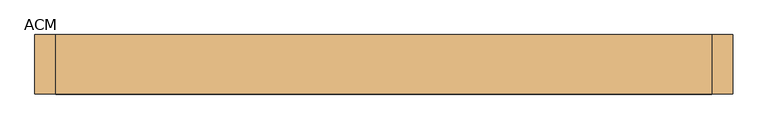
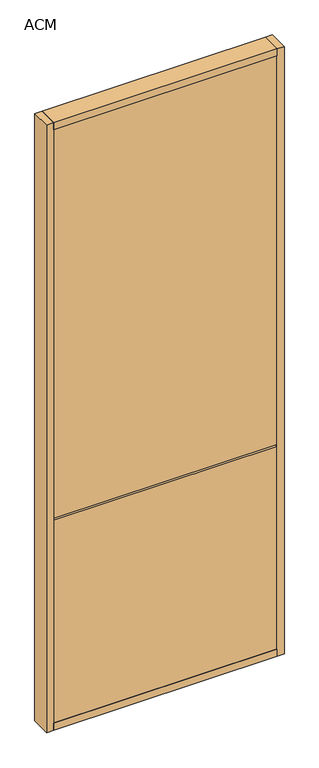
"""IFC4 building model written with IfcOpenShell, lengths in millimetres: door geometry, Mobiliário_Mobiliário de Escritório_Painel Cego - ACM (Completo)_Marelli : ACM."""

from ifc_helpers import new_model, si_unit, frame, origin, origin_with_axes, place, context, project, spatial, polyline, outline, extrude, source, transform, mapped, element, save


def acm_47dcd549(model_context):
    return source(origin(), model_context, "Body", "SweptSolid", [
        extrude(outline(polyline([(470.0, 42.5), (470.0, -42.5), (-470.0, -42.5), (-470.0, 42.5), (470.0, 42.5)])), origin_with_axes(), (0.0, 0.0, 1.0), 30.0),
        extrude(outline(polyline([(470.0, 39.5), (470.0, 21.5), (-470.0, 21.5), (-470.0, 39.5), (470.0, 39.5)])), frame((0.0, 0.0, 30.0), z_axis=(0.0, 0.0, 1.0), x_axis=(1.0, 0.0, 0.0)), (0.0, 0.0, 1.0), 900.0),
        extrude(outline(polyline([(470.0, 21.5), (470.0, -21.5), (-470.0, -21.5), (-470.0, 21.5), (470.0, 21.5)])), frame((0.0, 0.0, 913.5), z_axis=(0.0, 0.0, 1.0), x_axis=(1.0, 0.0, 0.0)), (0.0, 0.0, 1.0), 43.0),
        extrude(outline(polyline([(470.0, -39.5), (-470.0, -39.5), (-470.0, -21.5), (470.0, -21.5), (470.0, -39.5)])), frame((0.0, 0.0, 30.0), z_axis=(0.0, 0.0, 1.0), x_axis=(1.0, 0.0, 0.0)), (0.0, 0.0, 1.0), 900.0),
        extrude(outline(polyline([(470.0, 42.5), (470.0, -42.5), (-470.0, -42.5), (-470.0, 42.5), (470.0, 42.5)])), frame((0.0, 0.0, 2670.0), z_axis=(0.0, 0.0, 1.0), x_axis=(1.0, 0.0, 0.0)), (0.0, 0.0, 1.0), 30.0),
        extrude(outline(polyline([(-500.0, -42.5), (-500.0, 42.5), (-470.0, 42.5), (-470.0, -42.5), (-500.0, -42.5)])), origin_with_axes(), (0.0, 0.0, 1.0), 2700.0),
        extrude(outline(polyline([(500.0, -42.5), (470.0, -42.5), (470.0, 42.5), (500.0, 42.5), (500.0, -42.5)])), origin_with_axes(), (0.0, 0.0, 1.0), 2700.0),
        extrude(outline(polyline([(470.0, 39.5), (470.0, 21.5), (-470.0, 21.5), (-470.0, 39.5), (470.0, 39.5)])), frame((0.0, 0.0, 940.0), z_axis=(0.0, 0.0, 1.0), x_axis=(1.0, 0.0, 0.0)), (0.0, 0.0, 1.0), 1730.0),
        extrude(outline(polyline([(470.0, -39.5), (-470.0, -39.5), (-470.0, -21.5), (470.0, -21.5), (470.0, -39.5)])), frame((0.0, 0.0, 940.0), z_axis=(0.0, 0.0, 1.0), x_axis=(1.0, 0.0, 0.0)), (0.0, 0.0, 1.0), 1730.0),
    ])


if __name__ == "__main__":
    model = new_model("IFC4")
    model_context = context("Model", 3, world=origin())
    ifc_project = project(units=[si_unit("LENGTHUNIT", "METRE", prefix="MILLI")], contexts=[model_context])
    site = spatial("IfcSite", under=ifc_project)
    building = spatial("IfcBuilding", under=site)
    placement = place(None, origin())
    acm_shape = acm_47dcd549(model_context)
    element("IfcDoor", 1, ObjectType="Mobiliário_Mobiliário de Escritório_Painel Cego - ACM (Completo)_Marelli : ACM", at=placement, inside=building, context=model_context, shape_type="MappedRepresentation", body=[
        mapped(acm_shape, transform((0.0, 0.0, 0.0), x_axis=(1.0, 0.0, 0.0), y_axis=(0.0, 1.0, 0.0), z_axis=(0.0, 0.0, 1.0))),
    ])
    save(model, "model.ifc")
